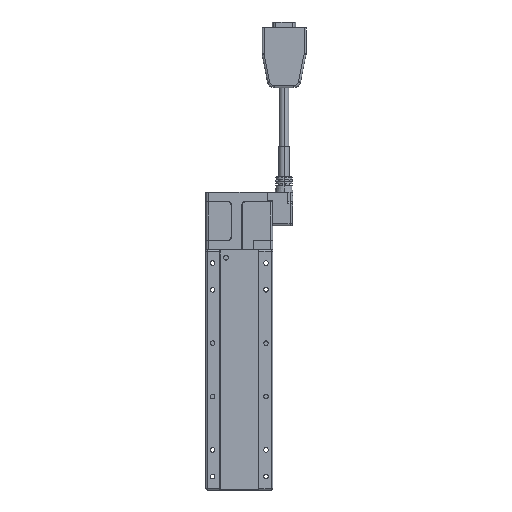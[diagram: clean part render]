
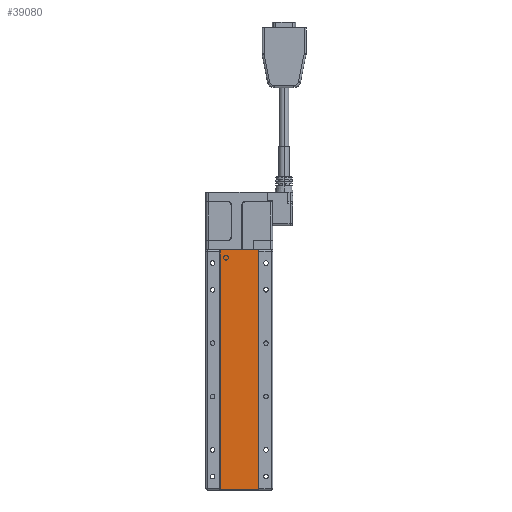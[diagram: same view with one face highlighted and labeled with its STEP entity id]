
A CAD part, front view. The second image highlights one B-rep face of the part: STEP entity #39080.
In plain terms, the highlighted planar face has unit normal (0, -1, 0).
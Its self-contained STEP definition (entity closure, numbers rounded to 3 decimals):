
#1313 = EDGE_CURVE ( 'NONE', #126050, #141174, #133427, .T. ) ;
#1893 = VERTEX_POINT ( 'NONE', #76658 ) ;
#5288 = CARTESIAN_POINT ( 'NONE',  ( 14.3, 0.3, 179.8 ) ) ;
#8293 = CARTESIAN_POINT ( 'NONE',  ( -14.3, 0.3, 0.2 ) ) ;
#11842 = EDGE_CURVE ( 'NONE', #141174, #1893, #105081, .T. ) ;
#12206 = EDGE_CURVE ( 'NONE', #55807, #126050, #100507, .T. ) ;
#17662 = CARTESIAN_POINT ( 'NONE',  ( -14.3, 0.3, 0.2 ) ) ;
#17949 = FACE_OUTER_BOUND ( 'NONE', #70577, .T. ) ;
#22740 = VECTOR ( 'NONE', #35461, 1000. ) ;
#24682 = CARTESIAN_POINT ( 'NONE',  ( 14.3, 0.3, 0.2 ) ) ;
#29399 = DIRECTION ( 'NONE',  ( 1., 0., 0. ) ) ;
#35461 = DIRECTION ( 'NONE',  ( -1., 0., 0. ) ) ;
#39080 = ADVANCED_FACE ( 'NONE', ( #17949 ), #119015, .F. ) ;
#45014 = DIRECTION ( 'NONE',  ( 0., 0., 1. ) ) ;
#55807 = VERTEX_POINT ( 'NONE', #8293 ) ;
#58684 = CARTESIAN_POINT ( 'NONE',  ( -14.3, 0.3, 179.8 ) ) ;
#68301 = ORIENTED_EDGE ( 'NONE', *, *, #12206, .T. ) ;
#69350 = ORIENTED_EDGE ( 'NONE', *, *, #1313, .T. ) ;
#70577 = EDGE_LOOP ( 'NONE', ( #129944, #68301, #69350, #75138 ) ) ;
#72298 = EDGE_CURVE ( 'NONE', #1893, #55807, #83556, .T. ) ;
#75138 = ORIENTED_EDGE ( 'NONE', *, *, #11842, .T. ) ;
#76658 = CARTESIAN_POINT ( 'NONE',  ( -14.3, 0.3, 179.8 ) ) ;
#83556 = LINE ( 'NONE', #17662, #123683 ) ;
#83841 = DIRECTION ( 'NONE',  ( -1., 0., 0. ) ) ;
#88723 = VECTOR ( 'NONE', #45014, 1000. ) ;
#96278 = DIRECTION ( 'NONE',  ( 0., 0., -1. ) ) ;
#100507 = LINE ( 'NONE', #134199, #127991 ) ;
#105081 = LINE ( 'NONE', #58684, #22740 ) ;
#108532 = CARTESIAN_POINT ( 'NONE',  ( -14.3, 0.3, 179.8 ) ) ;
#119015 = PLANE ( 'NONE',  #123993 ) ;
#120513 = DIRECTION ( 'NONE',  ( 0., 1., 0. ) ) ;
#123683 = VECTOR ( 'NONE', #96278, 1000. ) ;
#123993 = AXIS2_PLACEMENT_3D ( 'NONE', #108532, #120513, #83841 ) ;
#126050 = VERTEX_POINT ( 'NONE', #24682 ) ;
#127991 = VECTOR ( 'NONE', #29399, 1000. ) ;
#129944 = ORIENTED_EDGE ( 'NONE', *, *, #72298, .T. ) ;
#133427 = LINE ( 'NONE', #147589, #88723 ) ;
#134199 = CARTESIAN_POINT ( 'NONE',  ( -14.3, 0.3, 0.2 ) ) ;
#141174 = VERTEX_POINT ( 'NONE', #5288 ) ;
#147589 = CARTESIAN_POINT ( 'NONE',  ( 14.3, 0.3, 0.2 ) ) ;
